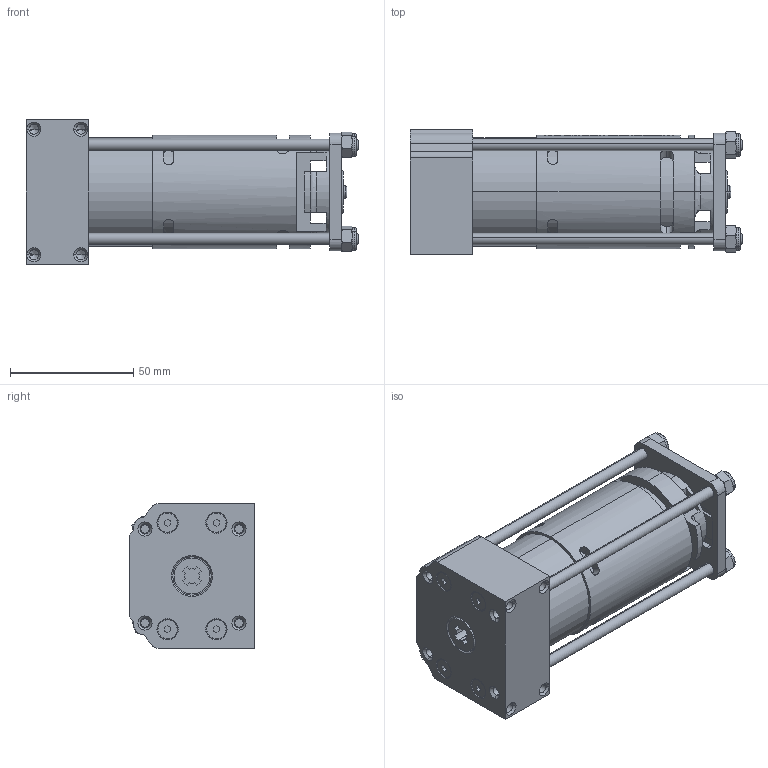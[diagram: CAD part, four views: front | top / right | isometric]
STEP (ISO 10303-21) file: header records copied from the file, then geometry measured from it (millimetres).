
FILE_DESCRIPTION (( 'STEP AP214' ), '1' );
FILE_NAME ('Dewalt Assy.STEP', '2004-05-15T01:16:52', ( 'Dan Bovinich' ), ( '' ), 'SwSTEP 2.0', 'SolidWorks 2004073', '' );
FILE_SCHEMA (( 'AUTOMOTIVE_DESIGN' ));
Length unit declared in the file: inch
Products named in the file (8): FHCS, 6-32 x .500; Stud; Lock nut; 18v Dewalt; Dewalt drill Motor Mount; Dewalt Assy; Motor Plate; Motor Support Assy
Assembly tree (16 placements, depth 3):
  Dewalt Assy
    FHCS, 6-32 x .500  x4
    Motor Support Assy
      Lock nut  x4
      Stud  x4
      Motor Plate
    18v Dewalt
    Dewalt drill Motor Mount
Bounding box: 134.45 x 50.8 x 58.42 mm (x, y, z)
Volume: 227655.9 mm3; surface area: 56046.9 mm2
Topology: 15 solids, 15 shells, 858 faces, 2178 edges, 1398 vertices
Faces by surface type: plane 419, cylinder 177, cone 118, bspline 114, torus 30
Entity records: 38117 total; most frequent: CARTESIAN_POINT 14529, ORIENTED_EDGE 3680, DIRECTION 3078, EDGE_CURVE 1840, VERTEX_POINT 1203, VECTOR 1078, LINE 1078, AXIS2_PLACEMENT_3D 1000
